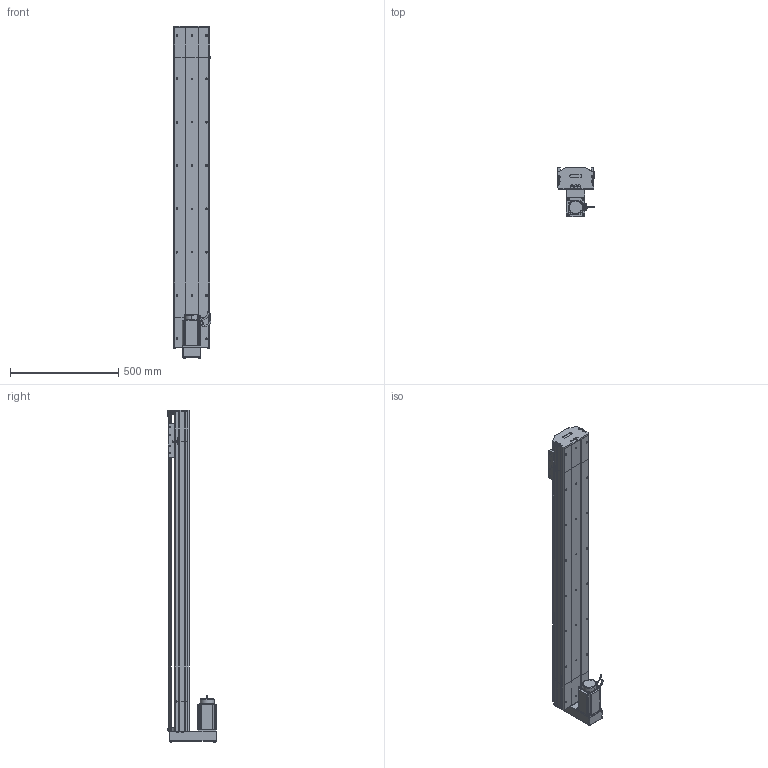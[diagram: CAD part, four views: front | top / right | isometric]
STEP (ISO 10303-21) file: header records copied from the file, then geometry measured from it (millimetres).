
FILE_DESCRIPTION (( 'STEP AP214' ), '1' );
FILE_NAME ('D17 TSH BM S1200.STEP', '2010-06-30T07:19:45', ( 'Christophe Gaillard' ), ( 'SGA' ), 'SwSTEP 2.0', 'SolidWorks 2010', '' );
FILE_SCHEMA (( 'AUTOMOTIVE_DESIGN' ));
Length unit declared in the file: millimetre
Products named in the file (33): vis M5 L12_Default; guide D17; Chariot D17; chariot D17S_Default; Cvis M5 L70_Default; Conecteur2_Default; codeur 90BLDC125-640; corps 90BLDC125A-640; renvoi Bm_Default; Vis M5 L16-2_Default; Conecteur_Default; avant 90BLDC125A-640; Moteur motionking 90BLDC125A-640; vis M5 L5_Default; Arbre+rail head D17; plaque de  bout BM head D17_Default; couvercle D17 head_Default; corpl head D17 BM_Default; arbre + rail D17 Course 1200 ; course 1200 D17_Default; D17 TSH BM S1200; couvercle D17 course L1200_Default; corp D17 1200_Default; tete d''axe bas D17; plaque de  bout tail D17_Default; corpl tail D17_Default; Tail D17_Default; couvercle D17_Default; Arbre+rail tail D17; tete d''axe haut D17; head BM_Default; vis M5 L25_Default; vis M5 L8 90°_Default
Assembly tree (55 placements, depth 4):
  D17 TSH BM S1200
    course 1200 D17_Default
      couvercle D17 course L1200_Default
      arbre + rail D17 Course 1200 
      corp D17 1200_Default
    chariot D17S_Default
      guide D17  x2
      vis M5 L12_Default  x4
      Chariot D17
    Tail D17_Default
      vis M5 L25_Default  x2
      plaque de  bout tail D17_Default
      vis M5 L8 90°_Default  x2
      tete d''axe haut D17
      corpl tail D17_Default
      vis M5 L12_Default  x4
      Arbre+rail tail D17
      tete d''axe bas D17
      couvercle D17_Default
    head BM_Default
      vis M5 L5_Default  x2
      vis M5 L12_Default  x8
      Vis M5 L16-2_Default  x4
      Arbre+rail head D17
      corpl head D17 BM_Default
      couvercle D17 head_Default
      renvoi Bm_Default
      plaque de  bout BM head D17_Default
      Moteur motionking 90BLDC125A-640
        codeur 90BLDC125-640
        Conecteur_Default
        corps 90BLDC125A-640
        avant 90BLDC125A-640
        Conecteur2_Default
      Cvis M5 L70_Default  x2
Bounding box: 174.95 x 225.7 x 1532.7 mm (x, y, z)
Volume: 9782589.7 mm3; surface area: 2511005.7 mm2
Topology: 80 solids, 80 shells, 2275 faces, 5743 edges, 3704 vertices
Faces by surface type: plane 1396, cylinder 602, bspline 136, torus 73, cone 64, sphere 4
Entity records: 73717 total; most frequent: CARTESIAN_POINT 22926, ORIENTED_EDGE 8994, DIRECTION 8426, EDGE_CURVE 4497, VECTOR 3086, LINE 3086, VERTEX_POINT 2950, AXIS2_PLACEMENT_3D 2670
